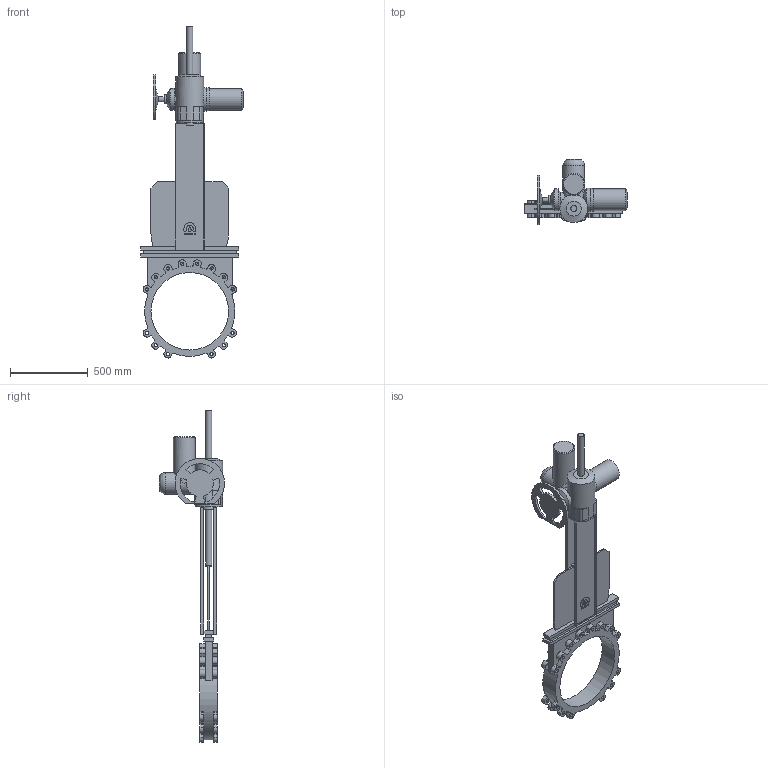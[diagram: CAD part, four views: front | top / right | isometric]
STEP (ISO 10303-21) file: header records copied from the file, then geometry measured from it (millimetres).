
FILE_DESCRIPTION(('STEP AP203'), '1');
FILE_NAME('K21GVA_DN500+MT903.A 45', '', ('UNSPECIFIED'), ('UNSPECIFIED'), 'ASCON STEP Converter 1.6', 'ASCON Math Kernel', '');
FILE_SCHEMA(('CONFIG_CONTROL_DESIGN'));
Length unit declared in the file: millimetre
Bounding box: 659 x 419.49 x 2141.41 mm (x, y, z)
Volume: 39217524.8 mm3; surface area: 2973217.4 mm2
Topology: 1 solids, 2 shells, 394 faces, 1076 edges, 707 vertices
Faces by surface type: plane 191, cylinder 176, cone 26, torus 1
Full cylindrical faces by diameter (mm): 14 x4, 18 x4, 20.752 x28, 32 x1, 40 x2, 60 x1, 80 x1, 100 x2, 140 x4, 147 x1, 151 x1, 175 x1, 500 x1
Entity records: 16150 total; most frequent: CARTESIAN_POINT 3012, DIRECTION 2145, ORIENTED_EDGE 1966, EDGE_CURVE 983, AXIS2_PLACEMENT_3D 796, VERTEX_POINT 691, LINE 553, VECTOR 553
